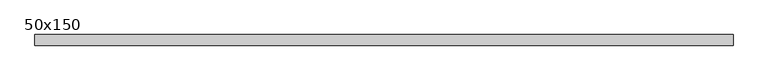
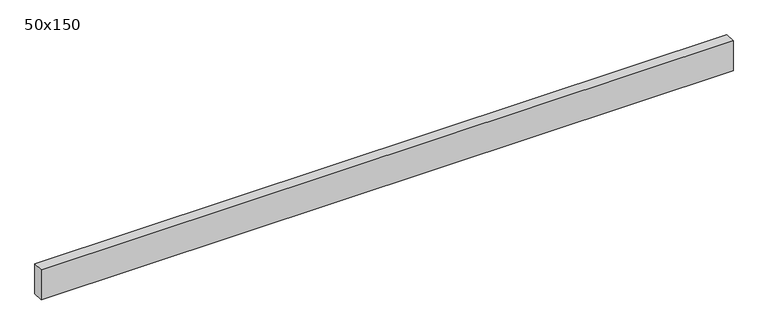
"""IFC4 building model written with IfcOpenShell, lengths in millimetres: beam geometry, Graded Timber : 50x150."""

from ifc_helpers import new_model, si_unit, frame, origin, place, context, project, spatial, polyline, outline, extrude, source, transform, mapped, element, save


def beam_50x150_908034af(model_context):
    return source(origin(), model_context, "Body", "SweptSolid", [
        extrude(outline(polyline([(1639.0, 25.0), (1639.0, -25.0), (-1639.0, -25.0), (-1639.0, 25.0), (1639.0, 25.0)])), frame((0.0, 0.0, -75.0), z_axis=(0.0, 0.0, 1.0), x_axis=(1.0, 0.0, 0.0)), (0.0, 0.0, 1.0), 150.0),
    ])


if __name__ == "__main__":
    model = new_model("IFC4")
    model_context = context("Model", 3, world=origin())
    ifc_project = project(units=[si_unit("LENGTHUNIT", "METRE", prefix="MILLI")], contexts=[model_context])
    site = spatial("IfcSite", under=ifc_project)
    building = spatial("IfcBuilding", under=site)
    placement = place(None, origin())
    beam_50x150_shape = beam_50x150_908034af(model_context)
    element("IfcBeam", 1, ObjectType="Graded Timber : 50x150", at=placement, inside=building, context=model_context, shape_type="MappedRepresentation", body=[
        mapped(beam_50x150_shape, transform((0.0, 0.0, 0.0), x_axis=(1.0, 0.0, 0.0), y_axis=(0.0, 1.0, 0.0), z_axis=(0.0, 0.0, 1.0))),
    ])
    save(model, "model.ifc")
